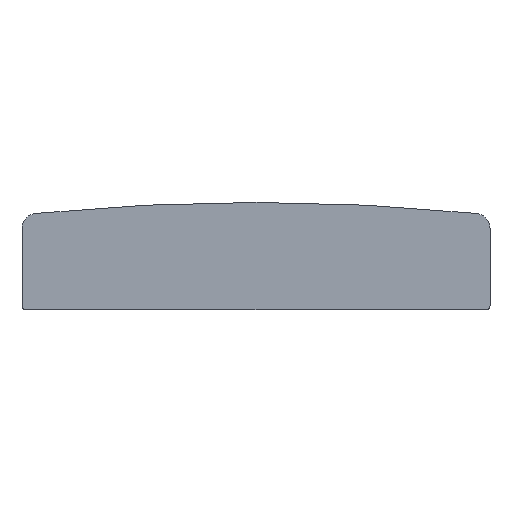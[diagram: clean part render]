
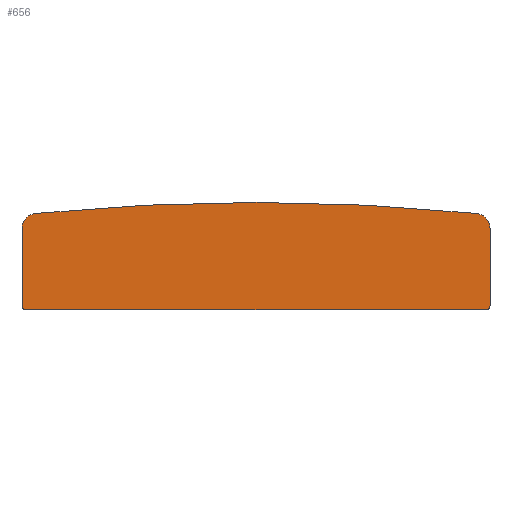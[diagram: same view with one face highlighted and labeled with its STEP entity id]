
A CAD part, top view. The second image highlights one B-rep face of the part: STEP entity #656.
In plain terms, the highlighted planar face has unit normal (0, 0, 1).
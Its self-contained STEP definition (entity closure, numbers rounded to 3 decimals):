
#24 = VERTEX_POINT('',#25);
#25 = CARTESIAN_POINT('',(-319.,65.8,69.5));
#32 = PLANE('',#33);
#33 = AXIS2_PLACEMENT_3D('',#34,#35,#36);
#34 = CARTESIAN_POINT('',(-319.,65.8,65.));
#35 = DIRECTION('',(0.,1.,0.));
#36 = DIRECTION('',(1.,0.,0.));
#44 = CYLINDRICAL_SURFACE('',#45,5.2);
#45 = AXIS2_PLACEMENT_3D('',#46,#47,#48);
#46 = CARTESIAN_POINT('',(-319.,71.,65.));
#47 = DIRECTION('',(-0.,-0.,-1.));
#48 = DIRECTION('',(-1.,0.,0.));
#56 = EDGE_CURVE('',#24,#57,#59,.T.);
#57 = VERTEX_POINT('',#58);
#58 = CARTESIAN_POINT('',(319.,65.8,69.5));
#59 = SURFACE_CURVE('',#60,(#64,#71),.PCURVE_S1.);
#60 = LINE('',#61,#62);
#61 = CARTESIAN_POINT('',(-319.,65.8,69.5));
#62 = VECTOR('',#63,1.);
#63 = DIRECTION('',(1.,0.,0.));
#64 = PCURVE('',#32,#65);
#65 = DEFINITIONAL_REPRESENTATION('',(#66),#70);
#66 = LINE('',#67,#68);
#67 = CARTESIAN_POINT('',(0.,-4.5));
#68 = VECTOR('',#69,1.);
#69 = DIRECTION('',(1.,0.));
#70 = ( GEOMETRIC_REPRESENTATION_CONTEXT(2) 
PARAMETRIC_REPRESENTATION_CONTEXT() REPRESENTATION_CONTEXT('2D SPACE',''
  ) );
#71 = PCURVE('',#72,#77);
#72 = PLANE('',#73);
#73 = AXIS2_PLACEMENT_3D('',#74,#75,#76);
#74 = CARTESIAN_POINT('',(0.,135.36,69.5));
#75 = DIRECTION('',(0.,0.,1.));
#76 = DIRECTION('',(1.,0.,-0.));
#77 = DEFINITIONAL_REPRESENTATION('',(#78),#82);
#78 = LINE('',#79,#80);
#79 = CARTESIAN_POINT('',(-319.,-69.56));
#80 = VECTOR('',#81,1.);
#81 = DIRECTION('',(1.,0.));
#82 = ( GEOMETRIC_REPRESENTATION_CONTEXT(2) 
PARAMETRIC_REPRESENTATION_CONTEXT() REPRESENTATION_CONTEXT('2D SPACE',''
  ) );
#100 = CYLINDRICAL_SURFACE('',#101,5.2);
#101 = AXIS2_PLACEMENT_3D('',#102,#103,#104);
#102 = CARTESIAN_POINT('',(319.,71.,65.));
#103 = DIRECTION('',(-0.,0.,-1.));
#104 = DIRECTION('',(0.,-1.,-0.));
#142 = EDGE_CURVE('',#57,#143,#145,.T.);
#143 = VERTEX_POINT('',#144);
#144 = CARTESIAN_POINT('',(324.2,71.,69.5));
#145 = SURFACE_CURVE('',#146,(#151,#158),.PCURVE_S1.);
#146 = CIRCLE('',#147,5.2);
#147 = AXIS2_PLACEMENT_3D('',#148,#149,#150);
#148 = CARTESIAN_POINT('',(319.,71.,69.5));
#149 = DIRECTION('',(0.,-0.,1.));
#150 = DIRECTION('',(0.,-1.,-0.));
#151 = PCURVE('',#100,#152);
#152 = DEFINITIONAL_REPRESENTATION('',(#153),#157);
#153 = LINE('',#154,#155);
#154 = CARTESIAN_POINT('',(-0.,-4.5));
#155 = VECTOR('',#156,1.);
#156 = DIRECTION('',(-1.,0.));
#157 = ( GEOMETRIC_REPRESENTATION_CONTEXT(2) 
PARAMETRIC_REPRESENTATION_CONTEXT() REPRESENTATION_CONTEXT('2D SPACE',''
  ) );
#158 = PCURVE('',#72,#159);
#159 = DEFINITIONAL_REPRESENTATION('',(#160),#164);
#160 = CIRCLE('',#161,5.2);
#161 = AXIS2_PLACEMENT_2D('',#162,#163);
#162 = CARTESIAN_POINT('',(319.,-64.36));
#163 = DIRECTION('',(0.,-1.));
#164 = ( GEOMETRIC_REPRESENTATION_CONTEXT(2) 
PARAMETRIC_REPRESENTATION_CONTEXT() REPRESENTATION_CONTEXT('2D SPACE',''
  ) );
#182 = PLANE('',#183);
#183 = AXIS2_PLACEMENT_3D('',#184,#185,#186);
#184 = CARTESIAN_POINT('',(324.2,71.,65.));
#185 = DIRECTION('',(-1.,0.,0.));
#186 = DIRECTION('',(0.,1.,0.));
#220 = EDGE_CURVE('',#143,#221,#223,.T.);
#221 = VERTEX_POINT('',#222);
#222 = CARTESIAN_POINT('',(324.2,177.891,69.5));
#223 = SURFACE_CURVE('',#224,(#228,#235),.PCURVE_S1.);
#224 = LINE('',#225,#226);
#225 = CARTESIAN_POINT('',(324.2,71.,69.5));
#226 = VECTOR('',#227,1.);
#227 = DIRECTION('',(0.,1.,0.));
#228 = PCURVE('',#182,#229);
#229 = DEFINITIONAL_REPRESENTATION('',(#230),#234);
#230 = LINE('',#231,#232);
#231 = CARTESIAN_POINT('',(0.,-4.5));
#232 = VECTOR('',#233,1.);
#233 = DIRECTION('',(1.,0.));
#234 = ( GEOMETRIC_REPRESENTATION_CONTEXT(2) 
PARAMETRIC_REPRESENTATION_CONTEXT() REPRESENTATION_CONTEXT('2D SPACE',''
  ) );
#235 = PCURVE('',#72,#236);
#236 = DEFINITIONAL_REPRESENTATION('',(#237),#241);
#237 = LINE('',#238,#239);
#238 = CARTESIAN_POINT('',(324.2,-64.36));
#239 = VECTOR('',#240,1.);
#240 = DIRECTION('',(0.,1.));
#241 = ( GEOMETRIC_REPRESENTATION_CONTEXT(2) 
PARAMETRIC_REPRESENTATION_CONTEXT() REPRESENTATION_CONTEXT('2D SPACE',''
  ) );
#259 = CYLINDRICAL_SURFACE('',#260,21.2);
#260 = AXIS2_PLACEMENT_3D('',#261,#262,#263);
#261 = CARTESIAN_POINT('',(303.,177.891,65.));
#262 = DIRECTION('',(-0.,0.,-1.));
#263 = DIRECTION('',(1.,0.,-0.));
#296 = EDGE_CURVE('',#221,#297,#299,.T.);
#297 = VERTEX_POINT('',#298);
#298 = CARTESIAN_POINT('',(305.109,198.986,69.5));
#299 = SURFACE_CURVE('',#300,(#305,#312),.PCURVE_S1.);
#300 = CIRCLE('',#301,21.2);
#301 = AXIS2_PLACEMENT_3D('',#302,#303,#304);
#302 = CARTESIAN_POINT('',(303.,177.891,69.5));
#303 = DIRECTION('',(0.,-0.,1.));
#304 = DIRECTION('',(1.,0.,-0.));
#305 = PCURVE('',#259,#306);
#306 = DEFINITIONAL_REPRESENTATION('',(#307),#311);
#307 = LINE('',#308,#309);
#308 = CARTESIAN_POINT('',(-0.,-4.5));
#309 = VECTOR('',#310,1.);
#310 = DIRECTION('',(-1.,0.));
#311 = ( GEOMETRIC_REPRESENTATION_CONTEXT(2) 
PARAMETRIC_REPRESENTATION_CONTEXT() REPRESENTATION_CONTEXT('2D SPACE',''
  ) );
#312 = PCURVE('',#72,#313);
#313 = DEFINITIONAL_REPRESENTATION('',(#314),#318);
#314 = CIRCLE('',#315,21.2);
#315 = AXIS2_PLACEMENT_2D('',#316,#317);
#316 = CARTESIAN_POINT('',(303.,42.531));
#317 = DIRECTION('',(1.,0.));
#318 = ( GEOMETRIC_REPRESENTATION_CONTEXT(2) 
PARAMETRIC_REPRESENTATION_CONTEXT() REPRESENTATION_CONTEXT('2D SPACE',''
  ) );
#336 = CYLINDRICAL_SURFACE('',#337,3067.);
#337 = AXIS2_PLACEMENT_3D('',#338,#339,#340);
#338 = CARTESIAN_POINT('',(0.,-2852.8,65.));
#339 = DIRECTION('',(-0.,0.,-1.));
#340 = DIRECTION('',(0.099,0.995,0.));
#374 = EDGE_CURVE('',#297,#375,#377,.T.);
#375 = VERTEX_POINT('',#376);
#376 = CARTESIAN_POINT('',(-305.109,198.986,69.5));
#377 = SURFACE_CURVE('',#378,(#383,#390),.PCURVE_S1.);
#378 = CIRCLE('',#379,3067.);
#379 = AXIS2_PLACEMENT_3D('',#380,#381,#382);
#380 = CARTESIAN_POINT('',(0.,-2852.8,69.5));
#381 = DIRECTION('',(0.,-0.,1.));
#382 = DIRECTION('',(0.099,0.995,0.));
#383 = PCURVE('',#336,#384);
#384 = DEFINITIONAL_REPRESENTATION('',(#385),#389);
#385 = LINE('',#386,#387);
#386 = CARTESIAN_POINT('',(-0.,-4.5));
#387 = VECTOR('',#388,1.);
#388 = DIRECTION('',(-1.,0.));
#389 = ( GEOMETRIC_REPRESENTATION_CONTEXT(2) 
PARAMETRIC_REPRESENTATION_CONTEXT() REPRESENTATION_CONTEXT('2D SPACE',''
  ) );
#390 = PCURVE('',#72,#391);
#391 = DEFINITIONAL_REPRESENTATION('',(#392),#396);
#392 = CIRCLE('',#393,3067.);
#393 = AXIS2_PLACEMENT_2D('',#394,#395);
#394 = CARTESIAN_POINT('',(0.,-2988.16));
#395 = DIRECTION('',(0.099,0.995));
#396 = ( GEOMETRIC_REPRESENTATION_CONTEXT(2) 
PARAMETRIC_REPRESENTATION_CONTEXT() REPRESENTATION_CONTEXT('2D SPACE',''
  ) );
#414 = CYLINDRICAL_SURFACE('',#415,21.2);
#415 = AXIS2_PLACEMENT_3D('',#416,#417,#418);
#416 = CARTESIAN_POINT('',(-303.,177.891,65.));
#417 = DIRECTION('',(-0.,-0.,-1.));
#418 = DIRECTION('',(-0.099,0.995,0.));
#452 = EDGE_CURVE('',#375,#453,#455,.T.);
#453 = VERTEX_POINT('',#454);
#454 = CARTESIAN_POINT('',(-324.2,177.891,69.5));
#455 = SURFACE_CURVE('',#456,(#461,#468),.PCURVE_S1.);
#456 = CIRCLE('',#457,21.2);
#457 = AXIS2_PLACEMENT_3D('',#458,#459,#460);
#458 = CARTESIAN_POINT('',(-303.,177.891,69.5));
#459 = DIRECTION('',(0.,0.,1.));
#460 = DIRECTION('',(-0.099,0.995,0.));
#461 = PCURVE('',#414,#462);
#462 = DEFINITIONAL_REPRESENTATION('',(#463),#467);
#463 = LINE('',#464,#465);
#464 = CARTESIAN_POINT('',(-0.,-4.5));
#465 = VECTOR('',#466,1.);
#466 = DIRECTION('',(-1.,0.));
#467 = ( GEOMETRIC_REPRESENTATION_CONTEXT(2) 
PARAMETRIC_REPRESENTATION_CONTEXT() REPRESENTATION_CONTEXT('2D SPACE',''
  ) );
#468 = PCURVE('',#72,#469);
#469 = DEFINITIONAL_REPRESENTATION('',(#470),#474);
#470 = CIRCLE('',#471,21.2);
#471 = AXIS2_PLACEMENT_2D('',#472,#473);
#472 = CARTESIAN_POINT('',(-303.,42.531));
#473 = DIRECTION('',(-0.099,0.995));
#474 = ( GEOMETRIC_REPRESENTATION_CONTEXT(2) 
PARAMETRIC_REPRESENTATION_CONTEXT() REPRESENTATION_CONTEXT('2D SPACE',''
  ) );
#492 = PLANE('',#493);
#493 = AXIS2_PLACEMENT_3D('',#494,#495,#496);
#494 = CARTESIAN_POINT('',(-324.2,177.891,65.));
#495 = DIRECTION('',(1.,0.,-0.));
#496 = DIRECTION('',(0.,-1.,0.));
#530 = EDGE_CURVE('',#453,#531,#533,.T.);
#531 = VERTEX_POINT('',#532);
#532 = CARTESIAN_POINT('',(-324.2,71.,69.5));
#533 = SURFACE_CURVE('',#534,(#538,#545),.PCURVE_S1.);
#534 = LINE('',#535,#536);
#535 = CARTESIAN_POINT('',(-324.2,177.891,69.5));
#536 = VECTOR('',#537,1.);
#537 = DIRECTION('',(0.,-1.,-0.));
#538 = PCURVE('',#492,#539);
#539 = DEFINITIONAL_REPRESENTATION('',(#540),#544);
#540 = LINE('',#541,#542);
#541 = CARTESIAN_POINT('',(0.,-4.5));
#542 = VECTOR('',#543,1.);
#543 = DIRECTION('',(1.,0.));
#544 = ( GEOMETRIC_REPRESENTATION_CONTEXT(2) 
PARAMETRIC_REPRESENTATION_CONTEXT() REPRESENTATION_CONTEXT('2D SPACE',''
  ) );
#545 = PCURVE('',#72,#546);
#546 = DEFINITIONAL_REPRESENTATION('',(#547),#551);
#547 = LINE('',#548,#549);
#548 = CARTESIAN_POINT('',(-324.2,42.531));
#549 = VECTOR('',#550,1.);
#550 = DIRECTION('',(0.,-1.));
#551 = ( GEOMETRIC_REPRESENTATION_CONTEXT(2) 
PARAMETRIC_REPRESENTATION_CONTEXT() REPRESENTATION_CONTEXT('2D SPACE',''
  ) );
#601 = EDGE_CURVE('',#531,#24,#602,.T.);
#602 = SURFACE_CURVE('',#603,(#608,#615),.PCURVE_S1.);
#603 = CIRCLE('',#604,5.2);
#604 = AXIS2_PLACEMENT_3D('',#605,#606,#607);
#605 = CARTESIAN_POINT('',(-319.,71.,69.5));
#606 = DIRECTION('',(0.,0.,1.));
#607 = DIRECTION('',(-1.,0.,0.));
#608 = PCURVE('',#44,#609);
#609 = DEFINITIONAL_REPRESENTATION('',(#610),#614);
#610 = LINE('',#611,#612);
#611 = CARTESIAN_POINT('',(-0.,-4.5));
#612 = VECTOR('',#613,1.);
#613 = DIRECTION('',(-1.,0.));
#614 = ( GEOMETRIC_REPRESENTATION_CONTEXT(2) 
PARAMETRIC_REPRESENTATION_CONTEXT() REPRESENTATION_CONTEXT('2D SPACE',''
  ) );
#615 = PCURVE('',#72,#616);
#616 = DEFINITIONAL_REPRESENTATION('',(#617),#621);
#617 = CIRCLE('',#618,5.2);
#618 = AXIS2_PLACEMENT_2D('',#619,#620);
#619 = CARTESIAN_POINT('',(-319.,-64.36));
#620 = DIRECTION('',(-1.,0.));
#621 = ( GEOMETRIC_REPRESENTATION_CONTEXT(2) 
PARAMETRIC_REPRESENTATION_CONTEXT() REPRESENTATION_CONTEXT('2D SPACE',''
  ) );
#656 = ADVANCED_FACE('',(#657),#72,.T.);
#657 = FACE_BOUND('',#658,.T.);
#658 = EDGE_LOOP('',(#659,#660,#661,#662,#663,#664,#665,#666));
#659 = ORIENTED_EDGE('',*,*,#56,.T.);
#660 = ORIENTED_EDGE('',*,*,#142,.T.);
#661 = ORIENTED_EDGE('',*,*,#220,.T.);
#662 = ORIENTED_EDGE('',*,*,#296,.T.);
#663 = ORIENTED_EDGE('',*,*,#374,.T.);
#664 = ORIENTED_EDGE('',*,*,#452,.T.);
#665 = ORIENTED_EDGE('',*,*,#530,.T.);
#666 = ORIENTED_EDGE('',*,*,#601,.T.);
